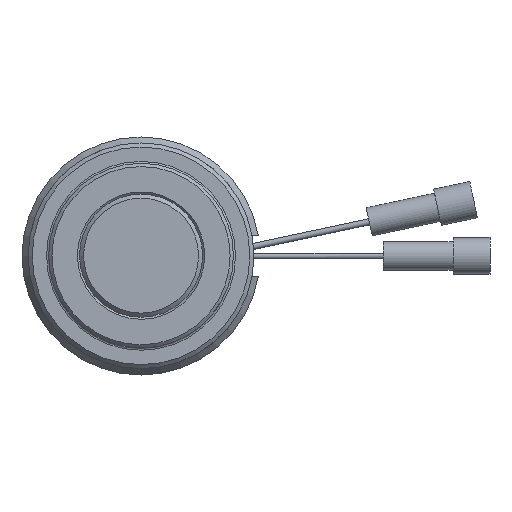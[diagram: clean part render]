
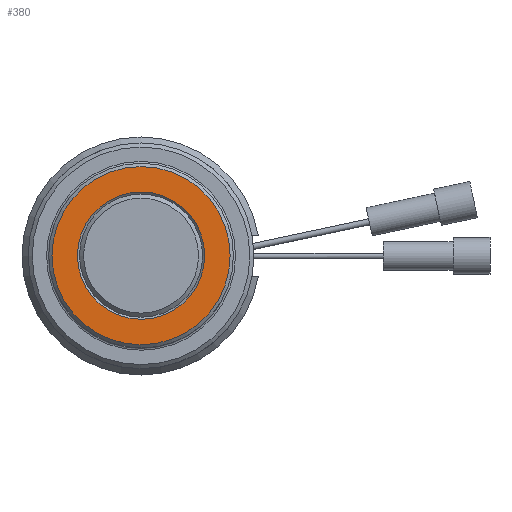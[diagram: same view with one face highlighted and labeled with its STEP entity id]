
A CAD part, top view. The second image highlights one B-rep face of the part: STEP entity #380.
In plain terms, the highlighted planar face has unit normal (0, 0, 1).
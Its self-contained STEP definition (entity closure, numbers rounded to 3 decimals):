
#380=ADVANCED_FACE('',(#825,#826),#827,.T.);
#825=FACE_BOUND('',#1302,.T.);
#826=FACE_OUTER_BOUND('',#1303,.T.);
#827=PLANE('',#1304);
#1302=EDGE_LOOP('',(#2275));
#1303=EDGE_LOOP('',(#2276));
#1304=AXIS2_PLACEMENT_3D('',#2277,#2278,#2279);
#2275=ORIENTED_EDGE('',*,*,#2687,.T.);
#2276=ORIENTED_EDGE('',*,*,#2684,.F.);
#2277=CARTESIAN_POINT('',(-15.5,0.0,50.4));
#2278=DIRECTION('',(0.0,0.,1.0));
#2279=DIRECTION('',(0.0,-1.0,0.));
#2684=EDGE_CURVE('',#3157,#3157,#3158,.T.);
#2687=EDGE_CURVE('',#3162,#3162,#3163,.T.);
#3157=VERTEX_POINT('',#3845);
#3158=CIRCLE('',#3846,21.7);
#3162=VERTEX_POINT('',#3850);
#3163=CIRCLE('',#3851,15.5);
#3845=CARTESIAN_POINT('',(0.0,21.7,50.4));
#3846=AXIS2_PLACEMENT_3D('',#4254,#4255,#4256);
#3850=CARTESIAN_POINT('',(0.0,15.5,50.4));
#3851=AXIS2_PLACEMENT_3D('',#4260,#4261,#4262);
#4254=CARTESIAN_POINT('',(0.0,0.0,50.4));
#4255=DIRECTION('',(-0.0,0.,-1.0));
#4256=DIRECTION('',(0.0,1.0,0.));
#4260=CARTESIAN_POINT('',(0.0,0.0,50.4));
#4261=DIRECTION('',(-0.0,0.,-1.0));
#4262=DIRECTION('',(0.0,1.0,0.));
